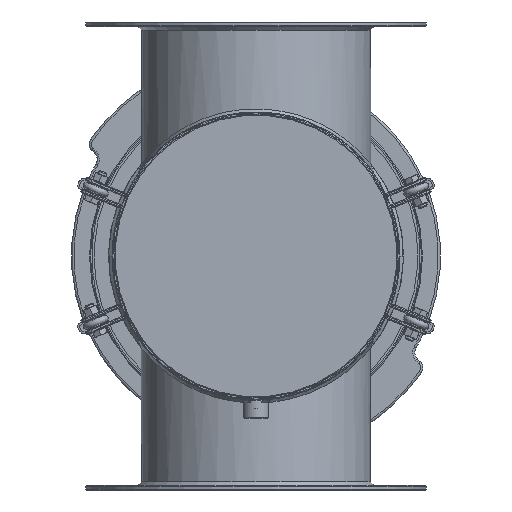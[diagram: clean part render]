
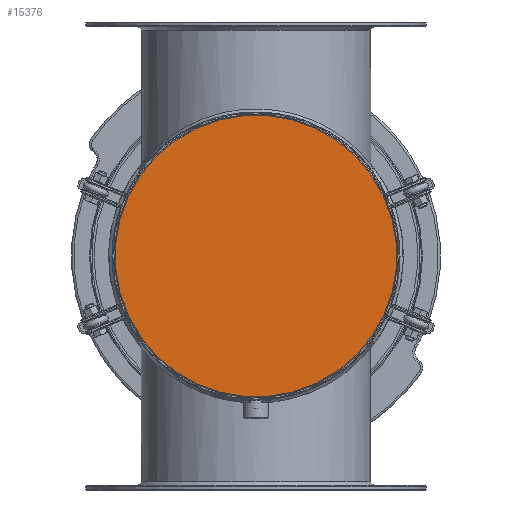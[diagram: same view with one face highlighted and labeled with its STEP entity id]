
A CAD part, front view. The second image highlights one B-rep face of the part: STEP entity #15376.
In plain terms, the highlighted planar face has unit normal (0, -1, 0).
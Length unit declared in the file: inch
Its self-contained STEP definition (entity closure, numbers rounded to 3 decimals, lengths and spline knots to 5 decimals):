
#1468=CIRCLE('',#16496,7.825);
#3141=FACE_OUTER_BOUND('',#4189,.T.);
#4189=EDGE_LOOP('',(#11098));
#7264=VERTEX_POINT('',#27477);
#8680=EDGE_CURVE('',#7264,#7264,#1468,.T.);
#11098=ORIENTED_EDGE('',*,*,#8680,.F.);
#15013=PLANE('',#16499);
#15376=ADVANCED_FACE('',(#3141),#15013,.F.);
#16496=AXIS2_PLACEMENT_3D('',#27478,#18983,#18984);
#16499=AXIS2_PLACEMENT_3D('',#27482,#18989,#18990);
#18983=DIRECTION('center_axis',(0.,1.,0.));
#18984=DIRECTION('ref_axis',(1.,0.,0.));
#18989=DIRECTION('center_axis',(0.,1.,0.));
#18990=DIRECTION('ref_axis',(0.,0.,1.));
#27477=CARTESIAN_POINT('',(-7.825,0.,0.));
#27478=CARTESIAN_POINT('Origin',(0.,0.,0.));
#27482=CARTESIAN_POINT('Origin',(0.,0.,0.));
